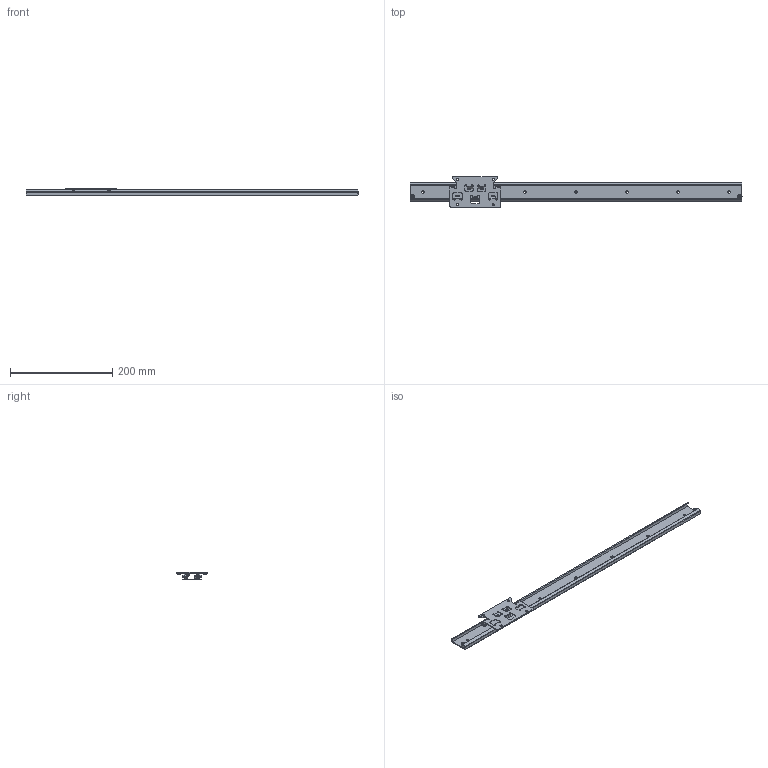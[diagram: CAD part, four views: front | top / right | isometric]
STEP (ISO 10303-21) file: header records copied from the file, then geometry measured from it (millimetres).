
FILE_DESCRIPTION((''),'1');
FILE_NAME('H:/図庫/国内ﾕﾆｯﾄ/ｽﾗｲﾄﾞ/ホームページ用ＣＡＤ図面/3D/37SW/stp', '2018-10-22T23:34:32',(''), (''), 'KCM Version 1.1.1442.0', 'Kubotek KeyCreator', '');
FILE_SCHEMA(('AUTOMOTIVE_DESIGN'));
Length unit declared in the file: millimetre
Bounding box: 650 x 60 x 14.8 mm (x, y, z)
Surface area: 95245.9 mm2 (no closed solid volume)
Topology: 0 solids, 619 shells, 619 faces, 2467 edges, 2166 vertices
Faces by surface type: plane 256, cone 170, cylinder 138, torus 48, bspline 6, sphere 1
Full cylindrical faces by diameter (mm): 2.3 x6, 2.44 x7, 3 x21, 3.5 x1, 4 x7, 4.03 x6, 4.5 x6, 5 x6, 5.5 x2, 5.6 x3, 6 x5, 8 x6, 8.2 x2
Entity records: 27157 total; most frequent: CARTESIAN_POINT 5580, DIRECTION 4837, ORIENTED_EDGE 2768, EDGE_CURVE 2466, VERTEX_POINT 2159, AXIS2_PLACEMENT_3D 1872, CIRCLE 1224, VECTOR 1093
